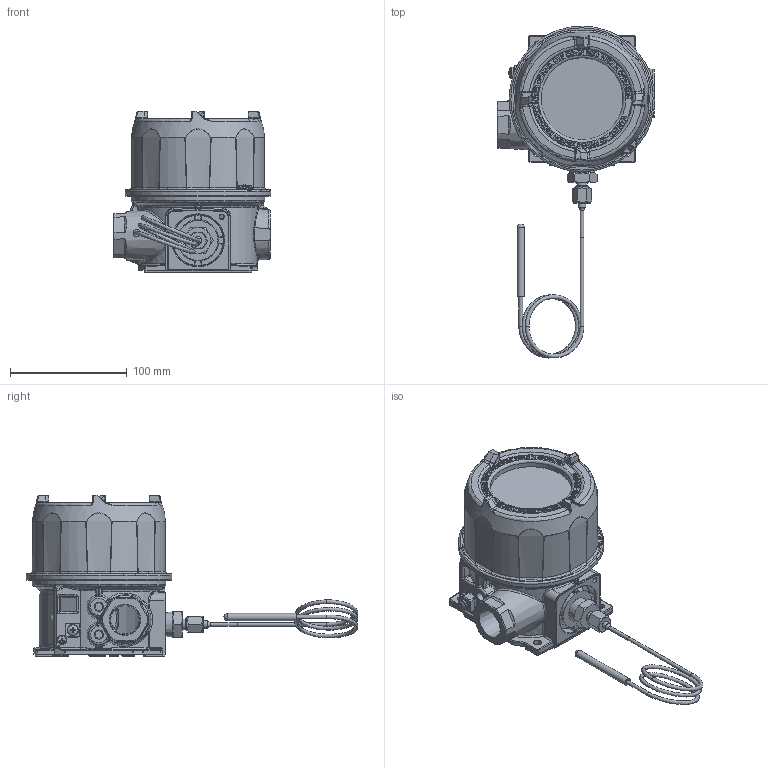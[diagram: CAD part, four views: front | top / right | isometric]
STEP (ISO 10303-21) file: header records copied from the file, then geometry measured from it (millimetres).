
FILE_DESCRIPTION (( 'STEP AP214' ), '1' );
FILE_NAME ('2SLP47_48_49_TR1_TH1_TC1_V7.STEP', '2025-03-13T17:45:27', ( '' ), ( '' ), 'SwSTEP 2.0', 'SolidWorks 2023', '' );
FILE_SCHEMA (( 'AUTOMOTIVE_DESIGN' ));
Length unit declared in the file: inch
Products named in the file (1): 2SLP47_48_49_TR1_TH1_TC1_V7
Bounding box: 135 x 283.89 x 138.33 mm (x, y, z)
Surface area: 107468.9 mm2 (no closed solid volume)
Topology: 0 solids, 27 shells, 1410 faces, 4661 edges, 3036 vertices
Faces by surface type: plane 561, bspline 374, cylinder 180, torus 165, cone 107, sphere 23
Full cylindrical faces by diameter (mm): 3.175 x3, 3.3 x1, 6.35 x2, 9.017 x1, 9.5 x1, 11.079 x1, 13.716 x1, 70.104 x1, 114.046 x1, 124.714 x1
Entity records: 72864 total; most frequent: CARTESIAN_POINT 36915, ORIENTED_EDGE 7382, DIRECTION 6371, EDGE_CURVE 4528, VERTEX_POINT 3007, VECTOR 2379, LINE 2379, AXIS2_PLACEMENT_3D 1996
